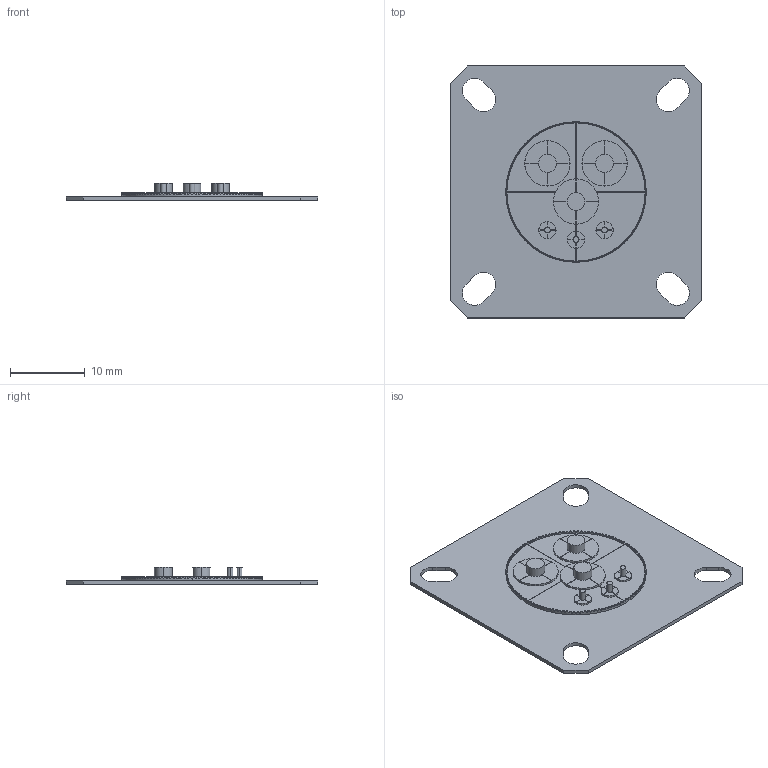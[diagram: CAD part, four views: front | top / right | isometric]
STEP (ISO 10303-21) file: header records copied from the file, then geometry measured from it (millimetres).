
FILE_DESCRIPTION((''),'2;1');
FILE_NAME('SMILEY_3_ASM','2021-03-01T15:51:39',('ccole'),(''),'CREO PARAMETRIC BY PTC INC, 2019292','CREO PARAMETRIC BY PTC INC, 2019292','');
FILE_SCHEMA(('CONFIG_CONTROL_DESIGN'));
Length unit declared in the file: inch
Products named in the file (4): INSERT_SIM_DUMMY-17; CONTACT_SIM_DUMMY-12; CONTACT_SIM_DUMMY-22D; SMILEY_3_ASM
Assembly tree (7 placements, depth 2):
  SMILEY_3_ASM
    INSERT_SIM_DUMMY-17
    CONTACT_SIM_DUMMY-12  x3
    CONTACT_SIM_DUMMY-22D  x3
Bounding box: 33.6 x 33.6 x 2.29 mm (x, y, z)
Volume: 655.1 mm3; surface area: 2515.7 mm2
Topology: 7 solids, 7 shells, 921 faces, 2666 edges, 1760 vertices
Faces by surface type: plane 523, cylinder 398
Entity records: 29901 total; most frequent: CARTESIAN_POINT 10105, ORIENTED_EDGE 4820, DIRECTION 3138, EDGE_CURVE 2410, VERTEX_POINT 1600, B_SPLINE_CURVE_WITH_KNOTS 1226, AXIS2_PLACEMENT_3D 1126, VECTOR 886
